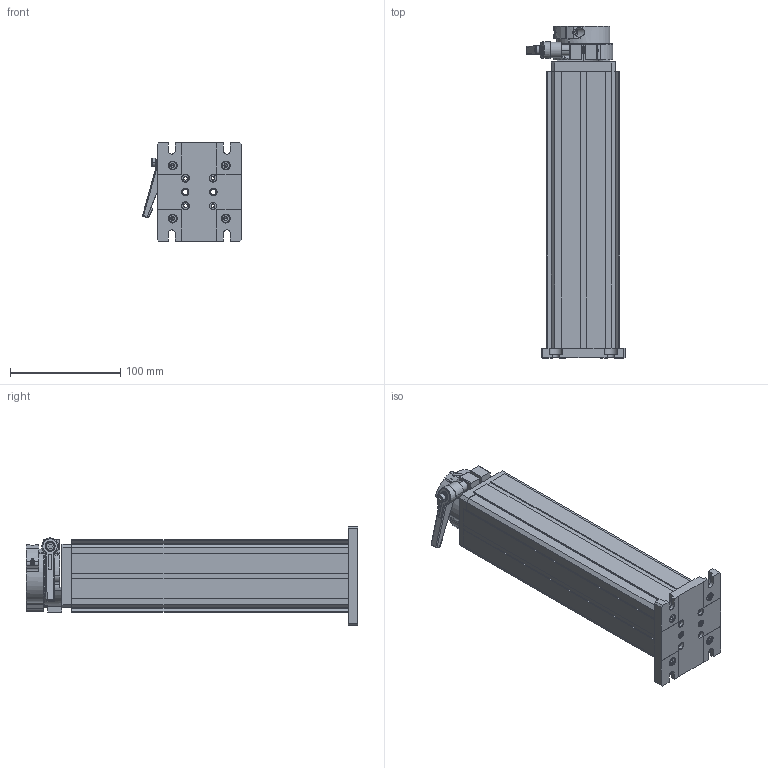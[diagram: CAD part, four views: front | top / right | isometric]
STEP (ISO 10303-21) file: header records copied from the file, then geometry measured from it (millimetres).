
FILE_DESCRIPTION((''),'2;1');
FILE_NAME('CAX-R250_ASM','2021-06-24T',('Administrator'),(''),'CREO PARAMETRIC BY PTC INC, 2015290','CREO PARAMETRIC BY PTC INC, 2015290','');
FILE_SCHEMA(('CONFIG_CONTROL_DESIGN'));
Products named in the file (13): OPS-ML; CFEP-A1_5___; M4X10_HM; PCA-K2; D3X18_AXLE; M4X12_HM; M6-16_A1; M6-16_A2; M4X14_HMZ; SPRING_6X8; M6-16_ASM; OPH_A250; CAX-R250_ASM
Assembly tree (19 placements, depth 3):
  CAX-R250_ASM
    OPS-ML
    CFEP-A1_5___
    M4X10_HM  x8
    PCA-K2
    D3X18_AXLE
    M4X12_HM
    M6-16_ASM
      M6-16_A1
      M6-16_A2
      M4X14_HMZ
      SPRING_6X8
    OPH_A250
Bounding box: 89.36 x 300.42 x 89.28 mm (x, y, z)
Volume: 499312.7 mm3; surface area: 171056.4 mm2
Topology: 18 solids, 18 shells, 1352 faces, 3380 edges, 2076 vertices
Faces by surface type: cylinder 543, plane 402, cone 215, bspline 182, torus 6, sphere 4
Entity records: 64792 total; most frequent: CARTESIAN_POINT 38545, ORIENTED_EDGE 5960, DIRECTION 4524, EDGE_CURVE 2980, VERTEX_POINT 1901, AXIS2_PLACEMENT_3D 1572, VECTOR 1380, LINE 1380
